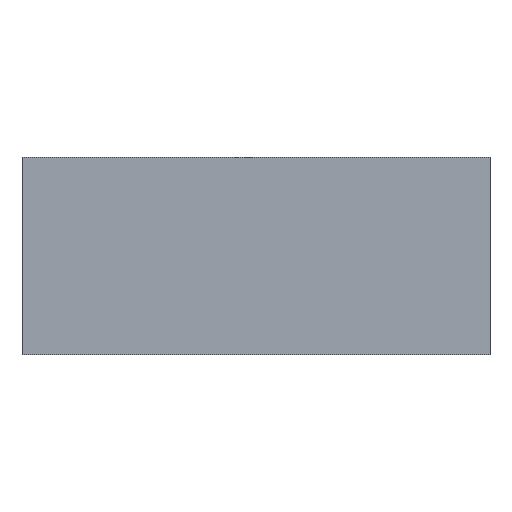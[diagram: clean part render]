
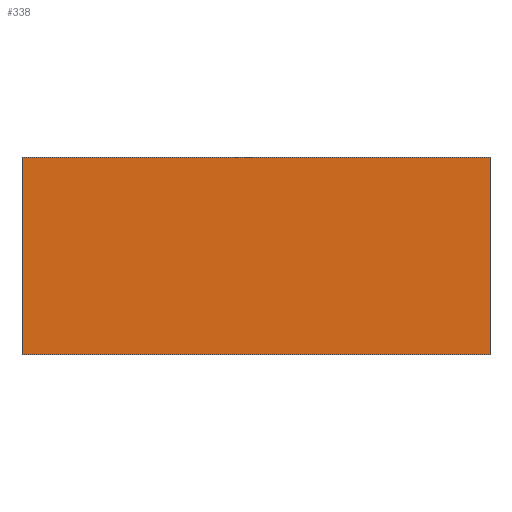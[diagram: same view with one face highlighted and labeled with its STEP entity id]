
A CAD part, top view. The second image highlights one B-rep face of the part: STEP entity #338.
In plain terms, the highlighted planar face has unit normal (0, 0, 1).
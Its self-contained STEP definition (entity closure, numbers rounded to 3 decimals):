
#24 = VERTEX_POINT('',#25);
#25 = CARTESIAN_POINT('',(45.,-25.,219.));
#32 = PLANE('',#33);
#33 = AXIS2_PLACEMENT_3D('',#34,#35,#36);
#34 = CARTESIAN_POINT('',(45.,-25.,205.));
#35 = DIRECTION('',(1.,0.,-0.));
#36 = DIRECTION('',(0.,0.,1.));
#44 = PLANE('',#45);
#45 = AXIS2_PLACEMENT_3D('',#46,#47,#48);
#46 = CARTESIAN_POINT('',(45.,-25.,205.));
#47 = DIRECTION('',(-0.,1.,0.));
#48 = DIRECTION('',(0.,0.,1.));
#85 = VERTEX_POINT('',#86);
#86 = CARTESIAN_POINT('',(45.,65.,219.));
#100 = PLANE('',#101);
#101 = AXIS2_PLACEMENT_3D('',#102,#103,#104);
#102 = CARTESIAN_POINT('',(45.,65.,205.));
#103 = DIRECTION('',(-0.,1.,0.));
#104 = DIRECTION('',(0.,0.,1.));
#112 = EDGE_CURVE('',#24,#85,#113,.T.);
#113 = SURFACE_CURVE('',#114,(#118,#125),.PCURVE_S1.);
#114 = LINE('',#115,#116);
#115 = CARTESIAN_POINT('',(45.,-25.,219.));
#116 = VECTOR('',#117,1.);
#117 = DIRECTION('',(-0.,1.,0.));
#118 = PCURVE('',#32,#119);
#119 = DEFINITIONAL_REPRESENTATION('',(#120),#124);
#120 = LINE('',#121,#122);
#121 = CARTESIAN_POINT('',(14.,0.));
#122 = VECTOR('',#123,1.);
#123 = DIRECTION('',(0.,-1.));
#124 = ( GEOMETRIC_REPRESENTATION_CONTEXT(2) 
PARAMETRIC_REPRESENTATION_CONTEXT() REPRESENTATION_CONTEXT('2D SPACE',''
  ) );
#125 = PCURVE('',#126,#131);
#126 = PLANE('',#127);
#127 = AXIS2_PLACEMENT_3D('',#128,#129,#130);
#128 = CARTESIAN_POINT('',(45.,-25.,219.));
#129 = DIRECTION('',(0.,0.,1.));
#130 = DIRECTION('',(1.,0.,-0.));
#131 = DEFINITIONAL_REPRESENTATION('',(#132),#136);
#132 = LINE('',#133,#134);
#133 = CARTESIAN_POINT('',(0.,0.));
#134 = VECTOR('',#135,1.);
#135 = DIRECTION('',(0.,1.));
#136 = ( GEOMETRIC_REPRESENTATION_CONTEXT(2) 
PARAMETRIC_REPRESENTATION_CONTEXT() REPRESENTATION_CONTEXT('2D SPACE',''
  ) );
#144 = VERTEX_POINT('',#145);
#145 = CARTESIAN_POINT('',(258.,-25.,219.));
#152 = PLANE('',#153);
#153 = AXIS2_PLACEMENT_3D('',#154,#155,#156);
#154 = CARTESIAN_POINT('',(258.,-25.,205.));
#155 = DIRECTION('',(1.,0.,-0.));
#156 = DIRECTION('',(0.,0.,1.));
#195 = VERTEX_POINT('',#196);
#196 = CARTESIAN_POINT('',(258.,65.,219.));
#217 = EDGE_CURVE('',#144,#195,#218,.T.);
#218 = SURFACE_CURVE('',#219,(#223,#230),.PCURVE_S1.);
#219 = LINE('',#220,#221);
#220 = CARTESIAN_POINT('',(258.,-25.,219.));
#221 = VECTOR('',#222,1.);
#222 = DIRECTION('',(-0.,1.,0.));
#223 = PCURVE('',#152,#224);
#224 = DEFINITIONAL_REPRESENTATION('',(#225),#229);
#225 = LINE('',#226,#227);
#226 = CARTESIAN_POINT('',(14.,0.));
#227 = VECTOR('',#228,1.);
#228 = DIRECTION('',(0.,-1.));
#229 = ( GEOMETRIC_REPRESENTATION_CONTEXT(2) 
PARAMETRIC_REPRESENTATION_CONTEXT() REPRESENTATION_CONTEXT('2D SPACE',''
  ) );
#230 = PCURVE('',#126,#231);
#231 = DEFINITIONAL_REPRESENTATION('',(#232),#236);
#232 = LINE('',#233,#234);
#233 = CARTESIAN_POINT('',(213.,0.));
#234 = VECTOR('',#235,1.);
#235 = DIRECTION('',(0.,1.));
#236 = ( GEOMETRIC_REPRESENTATION_CONTEXT(2) 
PARAMETRIC_REPRESENTATION_CONTEXT() REPRESENTATION_CONTEXT('2D SPACE',''
  ) );
#263 = EDGE_CURVE('',#24,#144,#264,.T.);
#264 = SURFACE_CURVE('',#265,(#269,#276),.PCURVE_S1.);
#265 = LINE('',#266,#267);
#266 = CARTESIAN_POINT('',(45.,-25.,219.));
#267 = VECTOR('',#268,1.);
#268 = DIRECTION('',(1.,0.,-0.));
#269 = PCURVE('',#44,#270);
#270 = DEFINITIONAL_REPRESENTATION('',(#271),#275);
#271 = LINE('',#272,#273);
#272 = CARTESIAN_POINT('',(14.,0.));
#273 = VECTOR('',#274,1.);
#274 = DIRECTION('',(0.,1.));
#275 = ( GEOMETRIC_REPRESENTATION_CONTEXT(2) 
PARAMETRIC_REPRESENTATION_CONTEXT() REPRESENTATION_CONTEXT('2D SPACE',''
  ) );
#276 = PCURVE('',#126,#277);
#277 = DEFINITIONAL_REPRESENTATION('',(#278),#282);
#278 = LINE('',#279,#280);
#279 = CARTESIAN_POINT('',(0.,0.));
#280 = VECTOR('',#281,1.);
#281 = DIRECTION('',(1.,0.));
#282 = ( GEOMETRIC_REPRESENTATION_CONTEXT(2) 
PARAMETRIC_REPRESENTATION_CONTEXT() REPRESENTATION_CONTEXT('2D SPACE',''
  ) );
#310 = EDGE_CURVE('',#85,#195,#311,.T.);
#311 = SURFACE_CURVE('',#312,(#316,#323),.PCURVE_S1.);
#312 = LINE('',#313,#314);
#313 = CARTESIAN_POINT('',(45.,65.,219.));
#314 = VECTOR('',#315,1.);
#315 = DIRECTION('',(1.,0.,-0.));
#316 = PCURVE('',#100,#317);
#317 = DEFINITIONAL_REPRESENTATION('',(#318),#322);
#318 = LINE('',#319,#320);
#319 = CARTESIAN_POINT('',(14.,0.));
#320 = VECTOR('',#321,1.);
#321 = DIRECTION('',(0.,1.));
#322 = ( GEOMETRIC_REPRESENTATION_CONTEXT(2) 
PARAMETRIC_REPRESENTATION_CONTEXT() REPRESENTATION_CONTEXT('2D SPACE',''
  ) );
#323 = PCURVE('',#126,#324);
#324 = DEFINITIONAL_REPRESENTATION('',(#325),#329);
#325 = LINE('',#326,#327);
#326 = CARTESIAN_POINT('',(0.,90.));
#327 = VECTOR('',#328,1.);
#328 = DIRECTION('',(1.,0.));
#329 = ( GEOMETRIC_REPRESENTATION_CONTEXT(2) 
PARAMETRIC_REPRESENTATION_CONTEXT() REPRESENTATION_CONTEXT('2D SPACE',''
  ) );
#338 = ADVANCED_FACE('',(#339),#126,.T.);
#339 = FACE_BOUND('',#340,.T.);
#340 = EDGE_LOOP('',(#341,#342,#343,#344));
#341 = ORIENTED_EDGE('',*,*,#112,.F.);
#342 = ORIENTED_EDGE('',*,*,#263,.T.);
#343 = ORIENTED_EDGE('',*,*,#217,.T.);
#344 = ORIENTED_EDGE('',*,*,#310,.F.);
